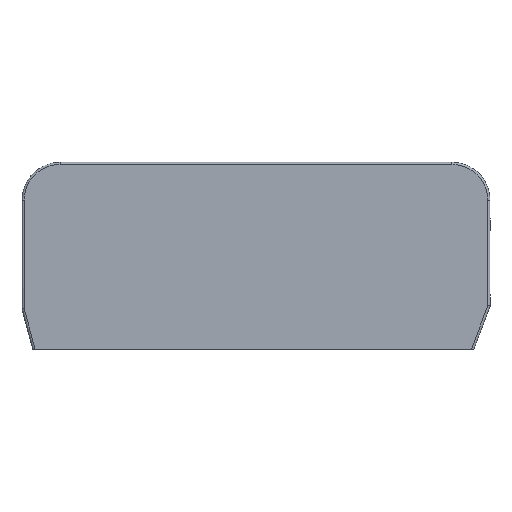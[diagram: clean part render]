
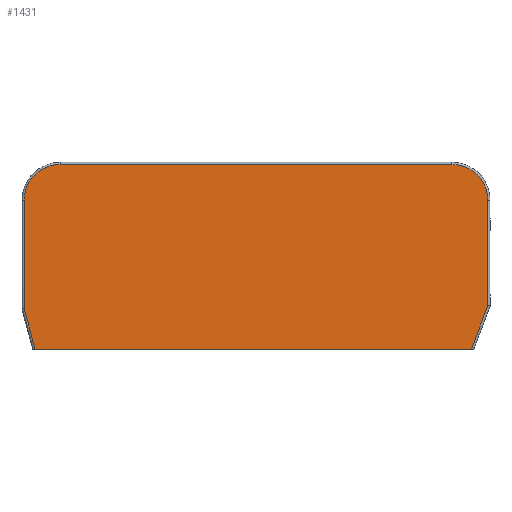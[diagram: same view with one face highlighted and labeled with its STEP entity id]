
A CAD part, top view. The second image highlights one B-rep face of the part: STEP entity #1431.
In plain terms, the highlighted planar face has unit normal (0, 0, 1).
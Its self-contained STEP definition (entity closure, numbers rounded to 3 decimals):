
#4 = B_SPLINE_CURVE_WITH_KNOTS ( 'NONE', 3,
 ( #1078, #1082, #1083, #1084, #1085, #1086, #1087, #1088, #1089, #1090, #1091, #1092, #1093, #1094, #1095, #1096, #1097, #1098, #1099, #1100, #1101 ),
 .UNSPECIFIED., .F., .F.,
 ( 4, 1, 1, 1, 2, 2, 2, 1, 1, 1, 1, 2, 2, 4 ),
 ( 0., 0.125, 0.187, 0.219, 0.234, 0.25, 0.5, 0.625, 0.688, 0.719, 0.734, 0.742, 0.75, 1. ),
 .UNSPECIFIED. ) ;
#5 = B_SPLINE_CURVE_WITH_KNOTS ( 'NONE', 3,
 ( #918, #921, #922, #923, #924, #925, #926, #927, #928, #929, #930, #931, #932, #933, #934, #935, #936, #937, #938, #939, #940 ),
 .UNSPECIFIED., .F., .F.,
 ( 4, 1, 1, 1, 2, 2, 2, 1, 1, 1, 1, 2, 2, 4 ),
 ( 0., 0.125, 0.187, 0.219, 0.234, 0.25, 0.5, 0.625, 0.687, 0.719, 0.734, 0.742, 0.75, 1. ),
 .UNSPECIFIED. ) ;
#150 = EDGE_LOOP ( 'NONE', ( #652, #655, #653, #654, #656, #657, #660, #658 ) ) ;
#155 = LINE ( 'NONE', #945, #164 ) ;
#164 = VECTOR ( 'NONE', #961, 1000. ) ;
#168 = VECTOR ( 'NONE', #919, 1000. ) ;
#172 = LINE ( 'NONE', #914, #168 ) ;
#226 = FACE_OUTER_BOUND ( 'NONE', #150, .T. ) ;
#437 = VECTOR ( 'NONE', #1177, 1000. ) ;
#438 = LINE ( 'NONE', #1176, #437 ) ;
#501 = VECTOR ( 'NONE', #1107, 1000. ) ;
#503 = LINE ( 'NONE', #1106, #501 ) ;
#514 = LINE ( 'NONE', #1074, #530 ) ;
#517 = LINE ( 'NONE', #1057, #521 ) ;
#521 = VECTOR ( 'NONE', #1064, 1000. ) ;
#530 = VECTOR ( 'NONE', #1075, 1000. ) ;
#652 = ORIENTED_EDGE ( 'NONE', *, *, #1592, .T. ) ;
#653 = ORIENTED_EDGE ( 'NONE', *, *, #1509, .T. ) ;
#654 = ORIENTED_EDGE ( 'NONE', *, *, #1652, .F. ) ;
#655 = ORIENTED_EDGE ( 'NONE', *, *, #1595, .T. ) ;
#656 = ORIENTED_EDGE ( 'NONE', *, *, #1497, .T. ) ;
#657 = ORIENTED_EDGE ( 'NONE', *, *, #1582, .T. ) ;
#658 = ORIENTED_EDGE ( 'NONE', *, *, #1589, .T. ) ;
#660 = ORIENTED_EDGE ( 'NONE', *, *, #1499, .T. ) ;
#797 = CARTESIAN_POINT ( 'NONE',  ( 23.575, -10.489, 27.003 ) ) ;
#802 = PLANE ( 'NONE',  #1555 ) ;
#807 = DIRECTION ( 'NONE',  ( 0., 0., 1. ) ) ;
#808 = DIRECTION ( 'NONE',  ( 1., 0., 0. ) ) ;
#914 = CARTESIAN_POINT ( 'NONE',  ( 43.432, -19.248, 27.003 ) ) ;
#918 = CARTESIAN_POINT ( 'NONE',  ( 44.946, -5.548, 27.003 ) ) ;
#919 = DIRECTION ( 'NONE',  ( 0.351, 0.936, 0. ) ) ;
#921 = CARTESIAN_POINT ( 'NONE',  ( 44.946, -5.338, 27.003 ) ) ;
#922 = CARTESIAN_POINT ( 'NONE',  ( 44.917, -5.029, 27.003 ) ) ;
#923 = CARTESIAN_POINT ( 'NONE',  ( 44.833, -4.678, 27.003 ) ) ;
#924 = CARTESIAN_POINT ( 'NONE',  ( 44.778, -4.505, 27.003 ) ) ;
#925 = CARTESIAN_POINT ( 'NONE',  ( 44.751, -4.431, 27.003 ) ) ;
#926 = CARTESIAN_POINT ( 'NONE',  ( 44.733, -4.382, 27.003 ) ) ;
#927 = CARTESIAN_POINT ( 'NONE',  ( 44.725, -4.36, 27.003 ) ) ;
#928 = CARTESIAN_POINT ( 'NONE',  ( 44.547, -3.91, 27.003 ) ) ;
#929 = CARTESIAN_POINT ( 'NONE',  ( 44.301, -3.537, 27.003 ) ) ;
#930 = CARTESIAN_POINT ( 'NONE',  ( 43.819, -3.054, 27.003 ) ) ;
#931 = CARTESIAN_POINT ( 'NONE',  ( 43.558, -2.841, 27.003 ) ) ;
#932 = CARTESIAN_POINT ( 'NONE',  ( 43.221, -2.644, 27.003 ) ) ;
#933 = CARTESIAN_POINT ( 'NONE',  ( 43.043, -2.558, 27.003 ) ) ;
#934 = CARTESIAN_POINT ( 'NONE',  ( 42.953, -2.518, 27.003 ) ) ;
#935 = CARTESIAN_POINT ( 'NONE',  ( 42.913, -2.501, 27.003 ) ) ;
#936 = CARTESIAN_POINT ( 'NONE',  ( 42.887, -2.49, 27.003 ) ) ;
#937 = CARTESIAN_POINT ( 'NONE',  ( 42.873, -2.485, 27.003 ) ) ;
#938 = CARTESIAN_POINT ( 'NONE',  ( 42.471, -2.326, 27.003 ) ) ;
#939 = CARTESIAN_POINT ( 'NONE',  ( 42.066, -2.248, 27.003 ) ) ;
#940 = CARTESIAN_POINT ( 'NONE',  ( 41.646, -2.248, 27.003 ) ) ;
#945 = CARTESIAN_POINT ( 'NONE',  ( 2.346, -15.49, 27.003 ) ) ;
#961 = DIRECTION ( 'NONE',  ( 0.259, -0.966, 0. ) ) ;
#1057 = CARTESIAN_POINT ( 'NONE',  ( 44.946, -10.489, 27.003 ) ) ;
#1064 = DIRECTION ( 'NONE',  ( 0., 1., 0. ) ) ;
#1074 = CARTESIAN_POINT ( 'NONE',  ( 23.575, -2.248, 27.003 ) ) ;
#1075 = DIRECTION ( 'NONE',  ( -1., 0., 0. ) ) ;
#1078 = CARTESIAN_POINT ( 'NONE',  ( 5.646, -2.248, 27.003 ) ) ;
#1082 = CARTESIAN_POINT ( 'NONE',  ( 5.436, -2.248, 27.003 ) ) ;
#1083 = CARTESIAN_POINT ( 'NONE',  ( 5.127, -2.277, 27.003 ) ) ;
#1084 = CARTESIAN_POINT ( 'NONE',  ( 4.776, -2.362, 27.003 ) ) ;
#1085 = CARTESIAN_POINT ( 'NONE',  ( 4.603, -2.417, 27.003 ) ) ;
#1086 = CARTESIAN_POINT ( 'NONE',  ( 4.529, -2.443, 27.003 ) ) ;
#1087 = CARTESIAN_POINT ( 'NONE',  ( 4.48, -2.461, 27.003 ) ) ;
#1088 = CARTESIAN_POINT ( 'NONE',  ( 4.458, -2.469, 27.003 ) ) ;
#1089 = CARTESIAN_POINT ( 'NONE',  ( 4.008, -2.647, 27.003 ) ) ;
#1090 = CARTESIAN_POINT ( 'NONE',  ( 3.635, -2.893, 27.003 ) ) ;
#1091 = CARTESIAN_POINT ( 'NONE',  ( 3.152, -3.376, 27.003 ) ) ;
#1092 = CARTESIAN_POINT ( 'NONE',  ( 2.939, -3.636, 27.003 ) ) ;
#1093 = CARTESIAN_POINT ( 'NONE',  ( 2.741, -3.974, 27.003 ) ) ;
#1094 = CARTESIAN_POINT ( 'NONE',  ( 2.655, -4.151, 27.003 ) ) ;
#1095 = CARTESIAN_POINT ( 'NONE',  ( 2.616, -4.241, 27.003 ) ) ;
#1096 = CARTESIAN_POINT ( 'NONE',  ( 2.599, -4.281, 27.003 ) ) ;
#1097 = CARTESIAN_POINT ( 'NONE',  ( 2.588, -4.307, 27.003 ) ) ;
#1098 = CARTESIAN_POINT ( 'NONE',  ( 2.583, -4.321, 27.003 ) ) ;
#1099 = CARTESIAN_POINT ( 'NONE',  ( 2.423, -4.723, 27.003 ) ) ;
#1100 = CARTESIAN_POINT ( 'NONE',  ( 2.346, -5.128, 27.003 ) ) ;
#1101 = CARTESIAN_POINT ( 'NONE',  ( 2.346, -5.548, 27.003 ) ) ;
#1106 = CARTESIAN_POINT ( 'NONE',  ( 2.346, -10.489, 27.003 ) ) ;
#1107 = DIRECTION ( 'NONE',  ( 0., -1., 0. ) ) ;
#1176 = CARTESIAN_POINT ( 'NONE',  ( 43.646, -19.248, 27.003 ) ) ;
#1177 = DIRECTION ( 'NONE',  ( -1., 0., 0. ) ) ;
#1279 = CARTESIAN_POINT ( 'NONE',  ( 2.346, -15.49, 27.003 ) ) ;
#1283 = CARTESIAN_POINT ( 'NONE',  ( 44.946, -5.548, 27.003 ) ) ;
#1285 = CARTESIAN_POINT ( 'NONE',  ( 3.353, -19.248, 27.003 ) ) ;
#1286 = CARTESIAN_POINT ( 'NONE',  ( 41.646, -2.248, 27.003 ) ) ;
#1287 = CARTESIAN_POINT ( 'NONE',  ( 5.646, -2.248, 27.003 ) ) ;
#1288 = CARTESIAN_POINT ( 'NONE',  ( 2.346, -5.548, 27.003 ) ) ;
#1349 = CARTESIAN_POINT ( 'NONE',  ( 44.946, -15.212, 27.003 ) ) ;
#1350 = CARTESIAN_POINT ( 'NONE',  ( 43.432, -19.248, 27.003 ) ) ;
#1431 = ADVANCED_FACE ( 'NONE', ( #226 ), #802, .T. ) ;
#1497 = EDGE_CURVE ( 'NONE', #1793, #1791, #172, .T. ) ;
#1499 = EDGE_CURVE ( 'NONE', #1710, #1713, #5, .T. ) ;
#1509 = EDGE_CURVE ( 'NONE', #1706, #1712, #155, .T. ) ;
#1555 = AXIS2_PLACEMENT_3D ( 'NONE', #797, #807, #808 ) ;
#1582 = EDGE_CURVE ( 'NONE', #1791, #1710, #517, .T. ) ;
#1589 = EDGE_CURVE ( 'NONE', #1713, #1714, #514, .T. ) ;
#1592 = EDGE_CURVE ( 'NONE', #1714, #1715, #4, .T. ) ;
#1595 = EDGE_CURVE ( 'NONE', #1715, #1706, #503, .T. ) ;
#1652 = EDGE_CURVE ( 'NONE', #1793, #1712, #438, .T. ) ;
#1706 = VERTEX_POINT ( 'NONE', #1279 ) ;
#1710 = VERTEX_POINT ( 'NONE', #1283 ) ;
#1712 = VERTEX_POINT ( 'NONE', #1285 ) ;
#1713 = VERTEX_POINT ( 'NONE', #1286 ) ;
#1714 = VERTEX_POINT ( 'NONE', #1287 ) ;
#1715 = VERTEX_POINT ( 'NONE', #1288 ) ;
#1791 = VERTEX_POINT ( 'NONE', #1349 ) ;
#1793 = VERTEX_POINT ( 'NONE', #1350 ) ;
